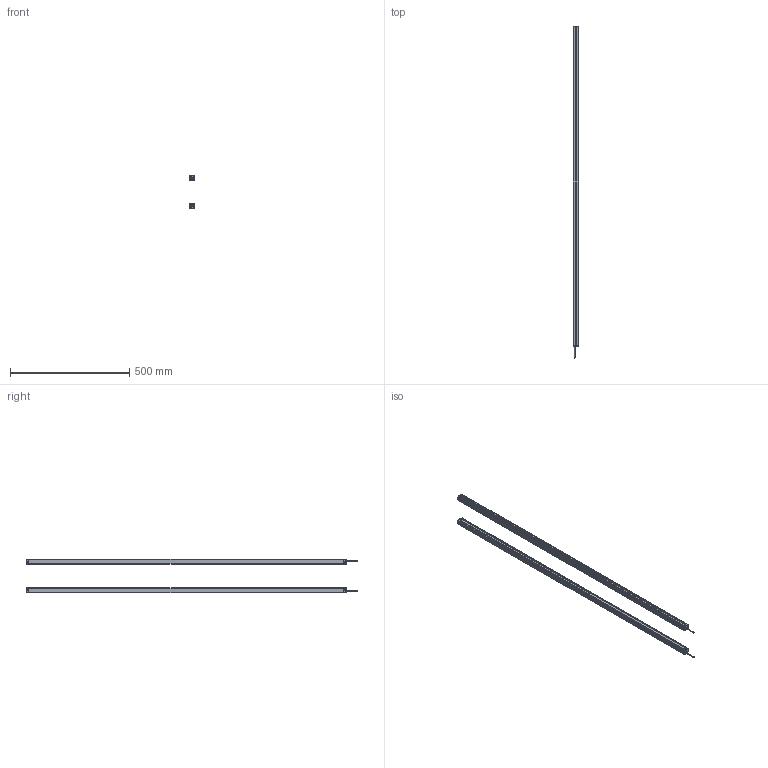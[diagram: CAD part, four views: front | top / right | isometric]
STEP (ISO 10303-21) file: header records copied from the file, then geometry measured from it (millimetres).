
FILE_DESCRIPTION (( 'STEP AP214' ), '1' );
FILE_NAME ('MTC6620.STEP', '2022-08-02T09:10:30', ( '' ), ( '' ), 'SwSTEP 2.0', 'SolidWorks 2018', '' );
FILE_SCHEMA (( 'AUTOMOTIVE_DESIGN' ));
Length unit declared in the file: millimetre
Products named in the file (5): P02^MTC; 噩砃P02^MTC; P01^MTC; MTC waike^MTC; MTC6620
Assembly tree (6 placements, depth 2):
  MTC6620
    MTC waike^MTC  x2
    P01^MTC  x2
    P02^MTC
    噩砃P02^MTC
Bounding box: 25 x 1392 x 141.4 mm (x, y, z)
Volume: 439200.7 mm3; surface area: 611523.3 mm2
Topology: 8 solids, 8 shells, 480 faces, 1396 edges, 924 vertices
Faces by surface type: plane 272, cylinder 208
Entity records: 10886 total; most frequent: DIRECTION 1881, CARTESIAN_POINT 1878, ORIENTED_EDGE 1846, EDGE_CURVE 923, AXIS2_PLACEMENT_3D 637, VERTEX_POINT 610, LINE 607, VECTOR 607
